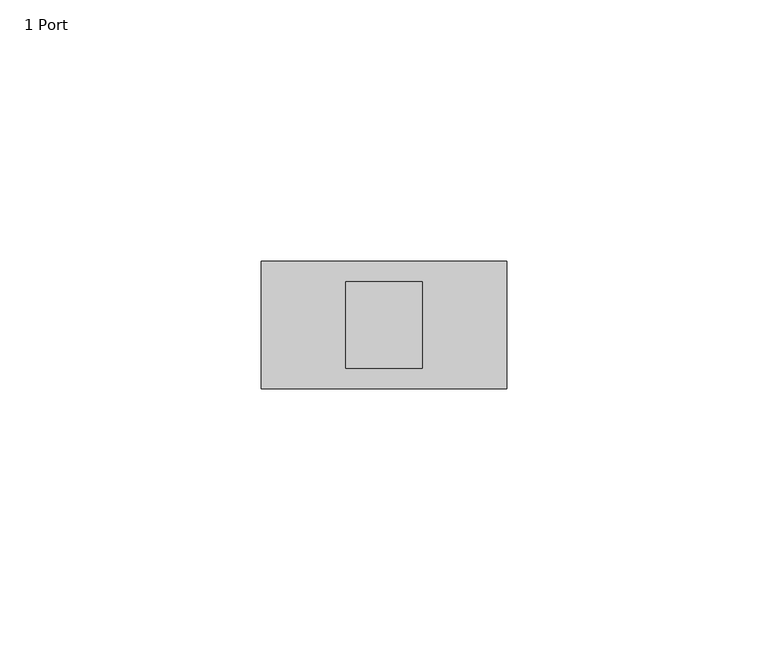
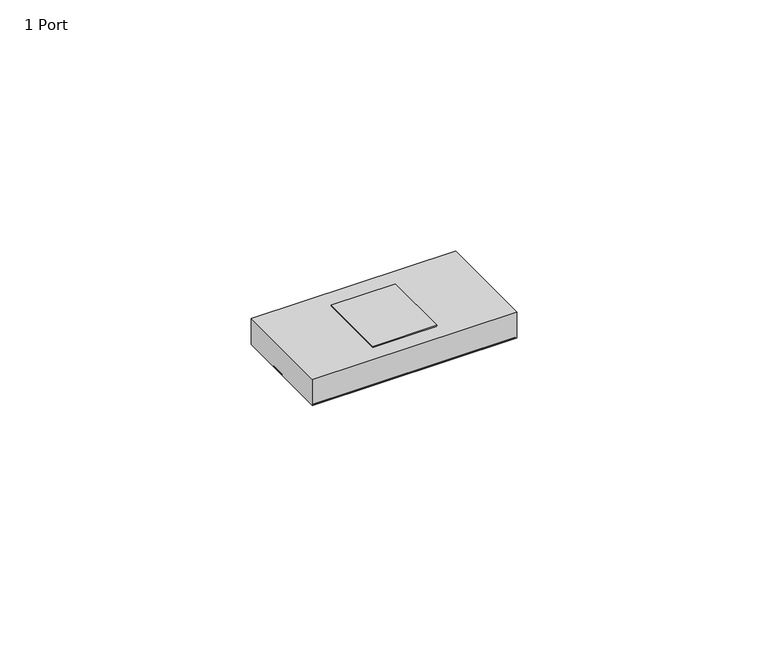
"""IFC4 building model written with IfcOpenShell, lengths in millimetres: electric appliance geometry, Data_Device-Work_Area-Leviton-MOS-Adapter-QuickPort : 1 Port."""

from ifc_helpers import new_model, si_unit, frame, origin, place, context, project, spatial, polyline, outline, extrude, source, transform, mapped, element, save


def electric_appliance_1_port_615b6bee(model_context):
    return source(origin(), model_context, "Body", "SweptSolid", [
        extrude(outline(polyline([(-15.6591, 16.4465), (-15.6591, -0.0635), (-30.3911, -0.0635), (-30.3911, 16.4465), (-15.6591, 16.4465)])), frame((0.0, 0.0, -6.096), z_axis=(0.0, 0.0, 1.0), x_axis=(1.0, 0.0, 0.0)), (0.0, 0.0, 1.0), 6.35),
        extrude(outline(polyline([(0.2159, 20.1295), (0.2159, -3.7465), (-46.2661, -3.7465), (-46.2661, 20.1295), (0.2159, 20.1295)])), frame((0.0, 0.0, -6.35), z_axis=(0.0, 0.0, 1.0), x_axis=(1.0, 0.0, 0.0)), (0.0, 0.0, 1.0), 0.254),
        extrude(outline(polyline([(0.4699, 20.3835), (0.4699, -4.0005), (-46.5201, -4.0005), (-46.5201, 20.3835), (0.4699, 20.3835)]), holes=[polyline([(-15.6591, 16.4465), (-30.3911, 16.4465), (-30.3911, -0.0635), (-15.6591, -0.0635), (-15.6591, 16.4465)])]), frame((0.0, 0.0, -6.096), z_axis=(0.0, 0.0, 1.0), x_axis=(1.0, 0.0, 0.0)), (0.0, 0.0, 1.0), 6.35),
    ])


if __name__ == "__main__":
    model = new_model("IFC4")
    model_context = context("Model", 3, world=origin())
    ifc_project = project(units=[si_unit("LENGTHUNIT", "METRE", prefix="MILLI")], contexts=[model_context])
    site = spatial("IfcSite", under=ifc_project)
    building = spatial("IfcBuilding", under=site)
    placement = place(None, origin())
    electric_appliance_1_port_shape = electric_appliance_1_port_615b6bee(model_context)
    element("IfcElectricAppliance", 1, ObjectType="Data_Device-Work_Area-Leviton-MOS-Adapter-QuickPort : 1 Port", at=placement, inside=building, context=model_context, shape_type="MappedRepresentation", body=[
        mapped(electric_appliance_1_port_shape, transform((0.0, 0.0, 0.0), x_axis=(1.0, 0.0, 0.0), y_axis=(0.0, 1.0, 0.0), z_axis=(0.0, 0.0, 1.0))),
    ])
    save(model, "model.ifc")
